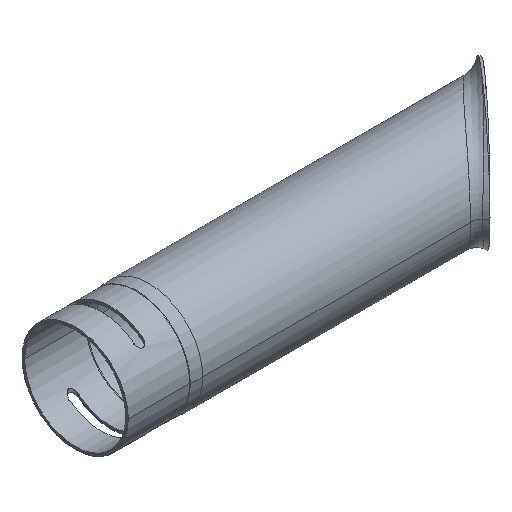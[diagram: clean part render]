
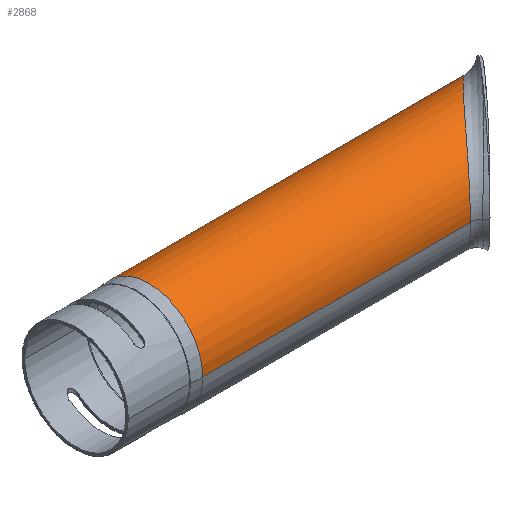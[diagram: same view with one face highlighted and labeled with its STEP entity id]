
A CAD part, isometric view. The second image highlights one B-rep face of the part: STEP entity #2868.
In plain terms, the highlighted cylindrical face has radius 26.3 mm (diameter 52.6 mm), a partial arc.
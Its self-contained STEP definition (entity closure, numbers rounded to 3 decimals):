
#979=DIRECTION('',(-1.,0.,0.));
#980=VECTOR('',#979,130.162);
#981=CARTESIAN_POINT('',(-55.085,-26.3,
0.));
#982=LINE('',#981,#980);
#986=CARTESIAN_POINT('',(-4.556,26.3,0.));
#1052=CARTESIAN_POINT('',(-55.085,-26.3,
0.));
#1057=DIRECTION('',(-1.,0.,0.));
#1058=VECTOR('',#1057,180.691);
#1059=CARTESIAN_POINT('',(-4.556,26.3,0.));
#1060=LINE('',#1059,#1058);
#1064=CARTESIAN_POINT('',(-185.247,0.,0.));
#1065=DIRECTION('',(1.,0.,0.));
#1066=DIRECTION('',(0.,1.,0.));
#1067=AXIS2_PLACEMENT_3D('',#1064,#1065,#1066);
#1072=CARTESIAN_POINT('',(-55.085,-26.3,
0.));
#1073=CARTESIAN_POINT('',(-55.085,-26.3,
0.381));
#1074=CARTESIAN_POINT('',(-55.071,-26.283,
1.145));
#1075=CARTESIAN_POINT('',(-55.008,-26.208,
2.297));
#1076=CARTESIAN_POINT('',(-54.901,-26.081,
3.453));
#1077=CARTESIAN_POINT('',(-54.75,-25.902,
4.61));
#1078=CARTESIAN_POINT('',(-54.553,-25.669,
5.765));
#1079=CARTESIAN_POINT('',(-54.312,-25.384,
6.916));
#1080=CARTESIAN_POINT('',(-54.025,-25.044,
8.06));
#1081=CARTESIAN_POINT('',(-53.69,-24.647,
9.203));
#1082=CARTESIAN_POINT('',(-53.307,-24.196,
10.333));
#1083=CARTESIAN_POINT('',(-52.874,-23.685,
11.456));
#1084=CARTESIAN_POINT('',(-52.387,-23.113,
12.571));
#1085=CARTESIAN_POINT('',(-51.846,-22.477,
13.675));
#1086=CARTESIAN_POINT('',(-51.248,-21.777,
14.766));
#1087=CARTESIAN_POINT('',(-50.594,-21.009,
15.84));
#1088=CARTESIAN_POINT('',(-49.881,-20.174,
16.891));
#1089=CARTESIAN_POINT('',(-49.111,-19.273,
17.913));
#1090=CARTESIAN_POINT('',(-48.283,-18.306,
18.9));
#1091=CARTESIAN_POINT('',(-47.396,-17.274,
19.848));
#1092=CARTESIAN_POINT('',(-46.446,-16.174,
20.755));
#1093=CARTESIAN_POINT('',(-45.434,-15.006,
21.615));
#1094=CARTESIAN_POINT('',(-44.356,-13.768,
22.425));
#1095=CARTESIAN_POINT('',(-43.219,-12.466,
23.174));
#1096=CARTESIAN_POINT('',(-42.024,-11.104,
23.857));
#1097=CARTESIAN_POINT('',(-40.774,-9.687,
24.467));
#1098=CARTESIAN_POINT('',(-39.472,-8.219,
24.999));
#1099=CARTESIAN_POINT('',(-38.12,-6.706,
25.447));
#1100=CARTESIAN_POINT('',(-36.717,-5.151,
25.807));
#1101=CARTESIAN_POINT('',(-35.27,-3.559,
26.075));
#1102=CARTESIAN_POINT('',(-33.797,-1.953,
26.244));
#1103=CARTESIAN_POINT('',(-32.313,-0.348,
26.314));
#1104=CARTESIAN_POINT('',(-30.821,1.247,26.286));
#1105=CARTESIAN_POINT('',(-29.33,2.825,26.164));
#1106=CARTESIAN_POINT('',(-27.849,4.373,25.949));
#1107=CARTESIAN_POINT('',(-26.394,5.877,25.65));
#1108=CARTESIAN_POINT('',(-24.957,7.346,25.268));
#1109=CARTESIAN_POINT('',(-23.544,8.774,24.808));
#1110=CARTESIAN_POINT('',(-22.163,10.154,24.275));
#1111=CARTESIAN_POINT('',(-20.819,11.483,23.675));
#1112=CARTESIAN_POINT('',(-19.514,12.76,23.012));
#1113=CARTESIAN_POINT('',(-18.26,13.972,22.296));
#1114=CARTESIAN_POINT('',(-17.063,15.116,21.536));
#1115=CARTESIAN_POINT('',(-15.917,16.201,20.732));
#1116=CARTESIAN_POINT('',(-14.827,17.222,19.891));
#1117=CARTESIAN_POINT('',(-13.794,18.181,19.019));
#1118=CARTESIAN_POINT('',(-12.818,19.077,18.118));
#1119=CARTESIAN_POINT('',(-11.901,19.913,17.195));
#1120=CARTESIAN_POINT('',(-11.043,20.687,16.255));
#1121=CARTESIAN_POINT('',(-10.247,21.398,15.306));
#1122=CARTESIAN_POINT('',(-9.51,22.051,14.349));
#1123=CARTESIAN_POINT('',(-8.831,22.648,13.385));
#1124=CARTESIAN_POINT('',(-8.208,23.193,12.417));
#1125=CARTESIAN_POINT('',(-7.64,23.686,11.447));
#1126=CARTESIAN_POINT('',(-7.124,24.13,10.478));
#1127=CARTESIAN_POINT('',(-6.661,24.528,9.51));
#1128=CARTESIAN_POINT('',(-6.247,24.88,8.545));
#1129=CARTESIAN_POINT('',(-5.881,25.19,7.581));
#1130=CARTESIAN_POINT('',(-5.562,25.459,6.62));
#1131=CARTESIAN_POINT('',(-5.29,25.688,5.668));
#1132=CARTESIAN_POINT('',(-5.061,25.879,4.719));
#1133=CARTESIAN_POINT('',(-4.876,26.034,3.771));
#1134=CARTESIAN_POINT('',(-4.733,26.154,2.826));
#1135=CARTESIAN_POINT('',(-4.631,26.238,1.881));
#1136=CARTESIAN_POINT('',(-4.57,26.289,
0.939));
#1137=CARTESIAN_POINT('',(-4.556,26.3,
0.313));
#1138=CARTESIAN_POINT('',(-4.556,26.3,0.));
#1183=CARTESIAN_POINT('',(-185.247,26.3,0.));
#1184=CARTESIAN_POINT('',(-185.247,-26.3,0.));
#1185=VERTEX_POINT('',#1183);
#1186=VERTEX_POINT('',#1184);
#1203=VERTEX_POINT('',#986);
#1204=VERTEX_POINT('',#1052);
#2857=CARTESIAN_POINT('',(-232.05,0.,0.));
#2858=DIRECTION('',(1.,0.,0.));
#2859=DIRECTION('',(0.,-1.,0.));
#2860=AXIS2_PLACEMENT_3D('',#2857,#2858,#2859);
#2861=CYLINDRICAL_SURFACE('',#2860,26.3);
#2862=ORIENTED_EDGE('',*,*,#2799,.F.);
#2863=ORIENTED_EDGE('',*,*,#2852,.F.);
#2864=ORIENTED_EDGE('',*,*,#1870,.F.);
#2865=ORIENTED_EDGE('',*,*,#2849,.T.);
#2866=EDGE_LOOP('',(#2862,#2863,#2864,#2865));
#2867=FACE_OUTER_BOUND('',#2866,.F.);
#1068=CIRCLE('',#1067,26.3);
#1139=B_SPLINE_CURVE_WITH_KNOTS('',3,(#1072,#1073,#1074,#1075,#1076,#1077,#1078,
#1079,#1080,#1081,#1082,#1083,#1084,#1085,#1086,#1087,#1088,#1089,#1090,#1091,
#1092,#1093,#1094,#1095,#1096,#1097,#1098,#1099,#1100,#1101,#1102,#1103,#1104,
#1105,#1106,#1107,#1108,#1109,#1110,#1111,#1112,#1113,#1114,#1115,#1116,#1117,
#1118,#1119,#1120,#1121,#1122,#1123,#1124,#1125,#1126,#1127,#1128,#1129,#1130,
#1131,#1132,#1133,#1134,#1135,#1136,#1137,#1138),.UNSPECIFIED.,.F.,.F.,(4,1,1,1,
1,1,1,1,1,1,1,1,1,1,1,1,1,1,1,1,1,1,1,1,1,1,1,1,1,1,1,1,1,1,1,1,1,1,1,1,1,1,1,1,
1,1,1,1,1,1,1,1,1,1,1,1,1,1,1,1,1,1,1,1,4),(0.,0.016,0.031,0.047,
0.063,0.078,0.094,0.109,0.125,0.141,0.156,0.172,
0.188,0.203,0.219,0.234,0.25,0.266,0.281,0.297,
0.313,0.328,0.344,0.359,0.375,0.391,0.406,
0.422,0.438,0.453,0.469,0.484,0.5,0.516,0.531,
0.547,0.563,0.578,0.594,0.609,0.625,0.641,
0.656,0.672,0.688,0.703,0.719,0.734,0.75,0.766,
0.781,0.797,0.813,0.828,0.844,0.859,0.875,
0.891,0.906,0.922,0.938,0.953,0.969,0.984,1.),
.UNSPECIFIED.);
#1870=EDGE_CURVE('',#1204,#1203,#1139,.T.);
#2799=EDGE_CURVE('',#1185,#1186,#1068,.T.);
#2849=EDGE_CURVE('',#1204,#1186,#982,.T.);
#2852=EDGE_CURVE('',#1203,#1185,#1060,.T.);
#2868=ADVANCED_FACE('',(#2867),#2861,.T.);
